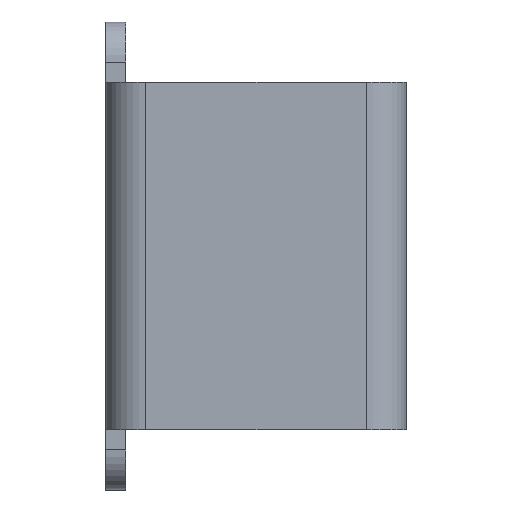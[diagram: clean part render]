
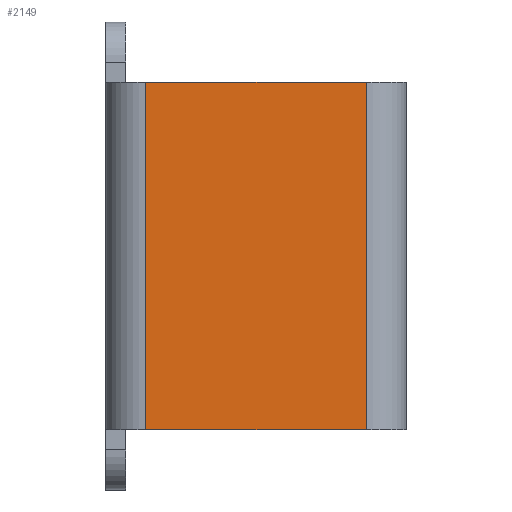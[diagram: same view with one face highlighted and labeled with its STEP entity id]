
A CAD part, left-side view. The second image highlights one B-rep face of the part: STEP entity #2149.
In plain terms, the highlighted planar face has unit normal (-1, 0, 0).
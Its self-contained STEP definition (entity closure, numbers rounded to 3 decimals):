
#10=DIRECTION('',(0.,-1.,0.));
#11=VECTOR('',#10,33.);
#12=CARTESIAN_POINT('',(-68.,-3.,-26.));
#13=LINE('',#12,#11);
#454=DIRECTION('',(0.,-1.,0.));
#455=VECTOR('',#454,33.);
#456=CARTESIAN_POINT('',(-68.,-3.,26.));
#457=LINE('',#456,#455);
#795=DIRECTION('',(0.,0.,1.));
#796=VECTOR('',#795,52.);
#797=CARTESIAN_POINT('',(-68.,-36.,-26.));
#798=LINE('',#797,#796);
#799=DIRECTION('',(0.,0.,1.));
#800=VECTOR('',#799,52.);
#801=CARTESIAN_POINT('',(-68.,-3.,-26.));
#802=LINE('',#801,#800);
#853=CARTESIAN_POINT('',(-68.,-3.,-26.));
#854=CARTESIAN_POINT('',(-68.,-36.,-26.));
#855=VERTEX_POINT('',#853);
#856=VERTEX_POINT('',#854);
#885=CARTESIAN_POINT('',(-68.,-3.,26.));
#886=CARTESIAN_POINT('',(-68.,-36.,26.));
#887=VERTEX_POINT('',#885);
#888=VERTEX_POINT('',#886);
#2137=CARTESIAN_POINT('',(-68.,-3.,-26.));
#2138=DIRECTION('',(-1.,0.,0.));
#2139=DIRECTION('',(0.,-1.,0.));
#2140=AXIS2_PLACEMENT_3D('',#2137,#2138,#2139);
#2141=PLANE('',#2140);
#2142=ORIENTED_EDGE('',*,*,#1110,.F.);
#2144=ORIENTED_EDGE('',*,*,#2143,.T.);
#2145=ORIENTED_EDGE('',*,*,#1576,.T.);
#2146=ORIENTED_EDGE('',*,*,#2130,.F.);
#2147=EDGE_LOOP('',(#2142,#2144,#2145,#2146));
#2148=FACE_OUTER_BOUND('',#2147,.F.);
#2149=ADVANCED_FACE('',(#2148),#2141,.T.);
#1110=EDGE_CURVE('',#855,#856,#13,.T.);
#1576=EDGE_CURVE('',#887,#888,#457,.T.);
#2130=EDGE_CURVE('',#856,#888,#798,.T.);
#2143=EDGE_CURVE('',#855,#887,#802,.T.);
